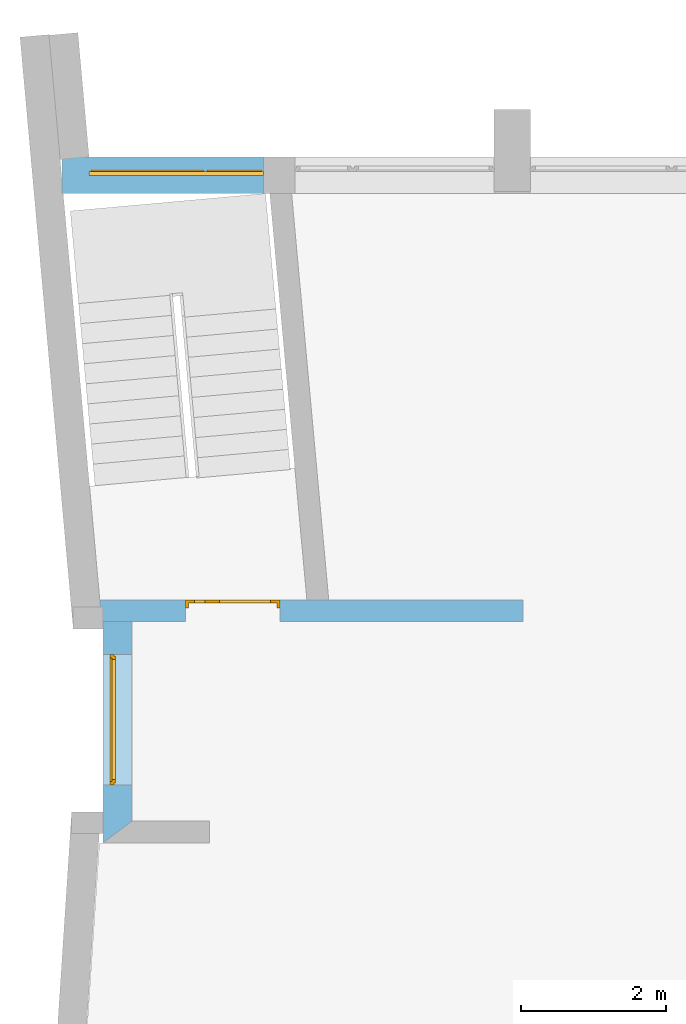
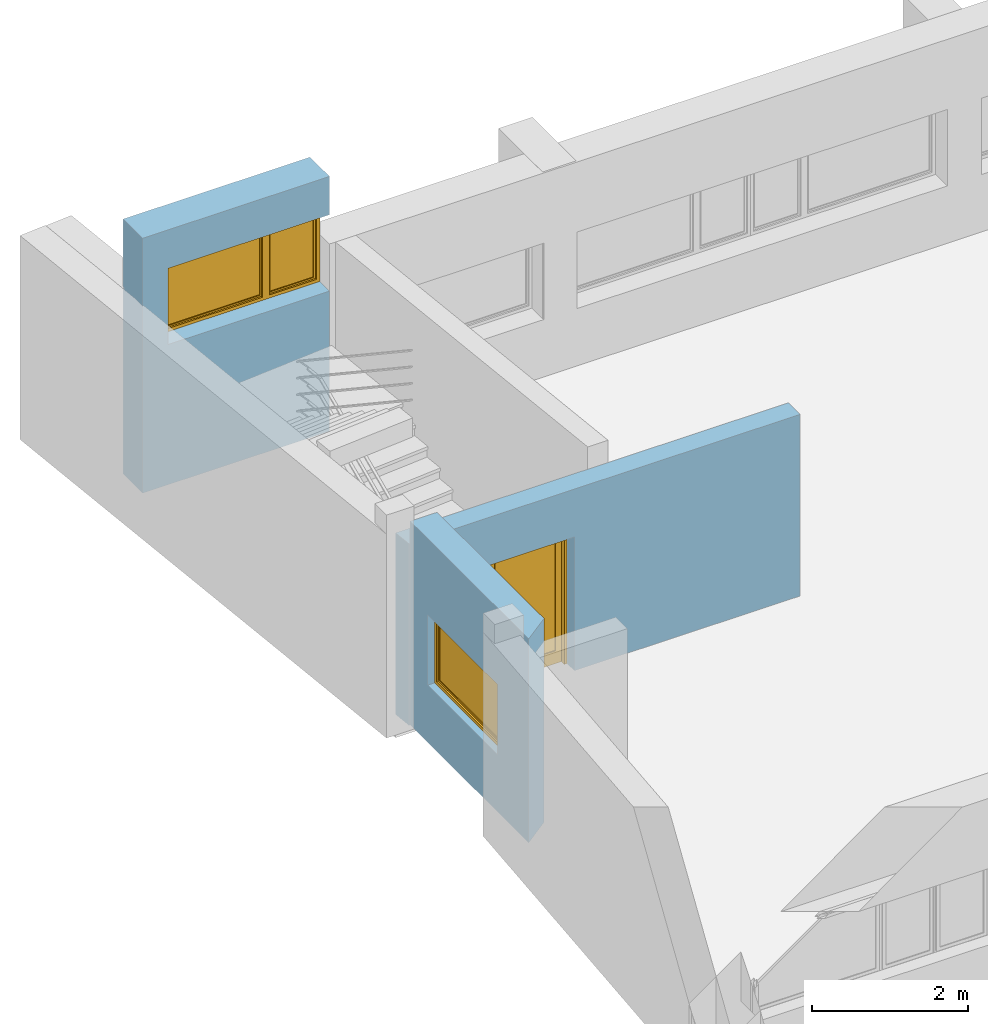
# One storey, part 8 of 10: 2 windows, 1 door, 4 openings, plus 3 elements that do not belong to this part.
"""IFC2X3 building model written with IfcOpenShell, lengths in millimetres."""

from ifc_helpers import new_model, entity, si_unit, converted_unit, money_unit, direction, frame, origin_with_axes, place, context, subcontext, project, spatial, polyline, outline, extrude, open_shell, faceted_brep, surface_model, material, material_list, layer, layer_set, layer_usage, type_object, element, fill, save


model = new_model("IFC2X3")

# Units and contexts
model_context = context("Model", 3, precision=1e-05, world=origin_with_axes(), true_north=direction((0.0, 1.0)))
body_context = subcontext(model_context, "Body", "Model", "MODEL_VIEW")
ifc_project = project(units=[si_unit("LENGTHUNIT", "METRE", prefix="MILLI"), si_unit("AREAUNIT", "SQUARE_METRE"), si_unit("VOLUMEUNIT", "CUBIC_METRE"), converted_unit("PLANEANGLEUNIT", "DEGREE", entity("IfcPlaneAngleMeasure", 0.0174532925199), si_unit("PLANEANGLEUNIT", "RADIAN"), dimensions=[0, 0, 0, 0, 0, 0, 0]), si_unit("SOLIDANGLEUNIT", "STERADIAN"), money_unit("USD"), converted_unit("TIMEUNIT", "Year", entity("IfcTimeMeasure", 31556926.0), si_unit("TIMEUNIT", "SECOND"), dimensions=[0, 0, 0, 0, 0, 0, 0]), si_unit("MASSUNIT", "GRAM"), si_unit("THERMODYNAMICTEMPERATUREUNIT", "DEGREE_CELSIUS"), si_unit("LUMINOUSINTENSITYUNIT", "LUMEN")], contexts=[model_context])

# Site, building, storey
site_placement = place(None, origin_with_axes())
site = spatial("IfcSite", under=ifc_project, at=site_placement, Name="Site", CompositionType="ELEMENT")
building_placement = place(site_placement, origin_with_axes())
building = spatial("IfcBuilding", under=site, at=building_placement, Name="Building", CompositionType="ELEMENT")
storey_placement = place(building_placement, origin_with_axes())
storey = spatial("IfcBuildingStorey", under=building, at=storey_placement, Name="2KORRUS", CompositionType="ELEMENT", Elevation=0.0)

# Wall, opening, window
ifc_material_1 = material(Name="Olemasolevad seinad tellis, uus viimistlus")
ifc_layer_1 = layer(ifc_material_1, 400.0, ventilated="UNKNOWN")
ifc_layer_set_1 = layer_set([ifc_layer_1], Name="Olemasolevad seinad tellis, uus viimistlus 400")
ifc_layer_usage_1 = layer_usage(ifc_layer_set_1, "AXIS2", "POSITIVE", -400.0)
wall_type_1 = type_object("IfcWallType", Name="Olemasolevad seinad tellis, uus viimistlus 400", PredefinedType="NOTDEFINED")
wall_1_placement = place(storey_placement, frame((-53377.938157, -11039.6041088, 0.0), z_axis=(0.0, 0.0, 1.0), x_axis=(0.0, -1.0, 0.0)))
wall_1 = element("IfcWallStandardCase", 1, at=wall_1_placement, inside=storey, type_object=wall_type_1, material=ifc_layer_usage_1, Name="vs1", ObjectType="vs1", context=body_context, shape_type="SweptSolid", body=[
    extrude(outline(polyline([(0.0, -400.0), (3047.7334586, -400.0), (2747.7334586, 0.0), (0.0, 0.0), (0.0, -400.0)])), origin_with_axes(), (0.0, 0.0, 1.0), 3200.0),
])
opening_1_placement = place(wall_1_placement, frame((1349.63579061, 0.0, 900.0), z_axis=(0.0, 0.0, 1.0), x_axis=(1.0, 0.0, 0.0)))
opening_1 = element("IfcOpeningElement", 2, at=opening_1_placement, cuts=wall_1, Name="A5", context=body_context, shape_type="SweptSolid", body=[
    extrude(outline(polyline([(-900.0, 0.0), (-900.0, -1100.0), (900.0, -1100.0), (900.0, 0.0), (-900.0, 0.0)])), frame((0.0, -300.0, 0.0), z_axis=(0.0, 1.0, 0.0), x_axis=(1.0, 0.0, 0.0)), (0.0, 0.0, 1.0), 700.0),
    extrude(outline(polyline([(-900.0, 1100.0), (-900.0, 0.0), (900.0, 0.0), (900.0, 1100.0), (-900.0, 1100.0)])), frame((0.0, -300.0, 0.0), z_axis=(0.0, -1.0, 0.0), x_axis=(1.0, 0.0, 0.0)), (0.0, 0.0, 1.0), 500.0),
])
ifc_material_2 = material(Name="Background")
ifc_material_list = material_list([ifc_material_2])
window_style_1 = type_object("IfcWindowStyle", Name="Window 19", ConstructionType="NOTDEFINED", OperationType="SINGLE_PANEL", ParameterTakesPrecedence=False, Sizeable=False)
window_1_placement = place(opening_1_placement, frame((-900.0, 0.0, 0.0), z_axis=(0.0, 0.0, 1.0), x_axis=(1.0, 0.0, 0.0)))
window_1 = element("IfcWindow", 3, at=window_1_placement, inside=storey, type_object=window_style_1, material=ifc_material_list, Name="A5", ObjectType="WINDOW", OverallHeight=1100.0, OverallWidth=1800.0, context=body_context, shape_type="SurfaceModel", body=[
    faceted_brep([(25.0, -250.0, 1050.0), (0.0, -250.0, 1050.0), (0.0, -300.0, 1050.0), (50.0, -300.0, 1050.0), (50.0, -275.0, 1050.0), (25.0, -275.0, 1050.0), (25.0, -250.0, 50.0), (0.0, -250.0, 50.0), (0.0, -300.0, 50.0), (50.0, -300.0, 50.0), (50.0, -275.0, 50.0), (25.0, -275.0, 50.0)], [[[0, 1, 2, 3, 4, 5]], [[6, 7, 1, 0]], [[1, 7, 8, 2]], [[2, 8, 9, 3]], [[4, 3, 9, 10]], [[10, 11, 5, 4]], [[5, 11, 6, 0]], [[11, 10, 9, 8, 7, 6]]]),
    faceted_brep([(1750.0, -275.0, 1050.0), (1750.0, -300.0, 1050.0), (1800.0, -300.0, 1050.0), (1800.0, -250.0, 1050.0), (1775.0, -250.0, 1050.0), (1775.0, -275.0, 1050.0), (1750.0, -275.0, 50.0), (1750.0, -300.0, 50.0), (1800.0, -300.0, 50.0), (1800.0, -250.0, 50.0), (1775.0, -250.0, 50.0), (1775.0, -275.0, 50.0)], [[[0, 1, 2, 3, 4, 5]], [[6, 7, 1, 0]], [[8, 2, 1, 7]], [[9, 3, 2, 8]], [[4, 3, 9, 10]], [[10, 11, 5, 4]], [[5, 11, 6, 0]], [[11, 10, 9, 8, 7, 6]]]),
    faceted_brep([(1750.0, -275.0, 50.0), (1750.0, -300.0, 50.0), (1800.0, -300.0, 50.0), (1800.0, -250.0, 50.0), (1775.0, -250.0, 50.0), (1775.0, -275.0, 50.0), (50.0, -275.0, 50.0), (50.0, -300.0, 50.0), (0.0, -300.0, 50.0), (0.0, -300.0, 0.0), (1800.0, -300.0, 0.0), (1800.0, -250.0, 0.0), (25.0, -250.0, 25.0), (1775.0, -250.0, 25.0), (0.0, -250.0, 0.0), (0.0, -250.0, 50.0), (25.0, -250.0, 50.0), (1775.0, -275.0, 25.0), (25.0, -275.0, 25.0), (25.0, -275.0, 50.0)], [[[0, 1, 2, 3, 4, 5]], [[6, 7, 1, 0]], [[8, 9, 10, 2, 1, 7]], [[11, 3, 2, 10]], [[12, 13, 4, 3, 11, 14, 15, 16]], [[13, 17, 5, 4]], [[5, 17, 18, 19, 6, 0]], [[19, 16, 15, 8, 7, 6]], [[15, 14, 9, 8]], [[14, 11, 10, 9]], [[12, 18, 17, 13]], [[19, 18, 12, 16]]]),
    faceted_brep([(25.0, -250.0, 1050.0), (0.0, -250.0, 1050.0), (0.0, -250.0, 1100.0), (1800.0, -250.0, 1100.0), (1800.0, -250.0, 1050.0), (1775.0, -250.0, 1050.0), (1775.0, -250.0, 1075.0), (25.0, -250.0, 1075.0), (25.0, -275.0, 1050.0), (50.0, -275.0, 1050.0), (50.0, -300.0, 1050.0), (0.0, -300.0, 1050.0), (0.0, -300.0, 1100.0), (1800.0, -300.0, 1100.0), (1800.0, -300.0, 1050.0), (1775.0, -275.0, 1050.0), (1750.0, -300.0, 1050.0), (1750.0, -275.0, 1050.0), (1775.0, -275.0, 1075.0), (25.0, -275.0, 1075.0)], [[[0, 1, 2, 3, 4, 5, 6, 7]], [[8, 9, 10, 11, 1, 0]], [[2, 1, 11, 12]], [[3, 2, 12, 13]], [[4, 3, 13, 14]], [[15, 5, 4, 14, 16, 17]], [[5, 15, 18, 6]], [[6, 18, 19, 7]], [[7, 19, 8, 0]], [[17, 9, 8, 19, 18, 15]], [[17, 16, 10, 9]], [[14, 13, 12, 11, 10, 16]]]),
    faceted_brep([(75.0, -275.0, 1025.0), (75.0, -225.0, 1025.0), (25.0, -225.0, 1025.0), (25.0, -275.0, 1025.0), (75.0, -275.0, 75.0), (75.0, -225.0, 75.0), (25.0, -225.0, 75.0), (25.0, -275.0, 75.0)], [[[0, 1, 2, 3]], [[4, 5, 1, 0]], [[1, 5, 6, 2]], [[3, 2, 6, 7]], [[0, 3, 7, 4]], [[7, 6, 5, 4]]]),
    faceted_brep([(1725.0, -275.0, 75.0), (1725.0, -225.0, 75.0), (1775.0, -225.0, 75.0), (1775.0, -275.0, 75.0), (1725.0, -275.0, 1025.0), (1725.0, -225.0, 1025.0), (1775.0, -225.0, 1025.0), (1775.0, -275.0, 1025.0)], [[[0, 1, 2, 3]], [[4, 5, 1, 0]], [[1, 5, 6, 2]], [[3, 2, 6, 7]], [[0, 3, 7, 4]], [[7, 6, 5, 4]]]),
    faceted_brep([(1775.0, -275.0, 25.0), (1775.0, -225.0, 25.0), (1775.0, -225.0, 75.0), (1775.0, -275.0, 75.0), (25.0, -275.0, 25.0), (25.0, -225.0, 25.0), (25.0, -225.0, 75.0), (75.0, -225.0, 75.0), (1725.0, -225.0, 75.0), (1725.0, -275.0, 75.0), (75.0, -275.0, 75.0), (25.0, -275.0, 75.0)], [[[0, 1, 2, 3]], [[4, 5, 1, 0]], [[1, 5, 6, 7, 8, 2]], [[3, 2, 8, 9]], [[0, 3, 9, 10, 11, 4]], [[11, 6, 5, 4]], [[10, 7, 6, 11]], [[9, 8, 7, 10]]]),
    faceted_brep([(25.0, -275.0, 1075.0), (25.0, -225.0, 1075.0), (25.0, -225.0, 1025.0), (25.0, -275.0, 1025.0), (1775.0, -275.0, 1075.0), (1775.0, -225.0, 1075.0), (1775.0, -225.0, 1025.0), (1725.0, -225.0, 1025.0), (75.0, -225.0, 1025.0), (75.0, -275.0, 1025.0), (1725.0, -275.0, 1025.0), (1775.0, -275.0, 1025.0)], [[[0, 1, 2, 3]], [[4, 5, 1, 0]], [[1, 5, 6, 7, 8, 2]], [[3, 2, 8, 9]], [[0, 3, 9, 10, 11, 4]], [[11, 6, 5, 4]], [[10, 7, 6, 11]], [[9, 8, 7, 10]]]),
    surface_model("IfcShellBasedSurfaceModel", [(75.0, -260.0, 75.0), (1725.0, -260.0, 75.0), (1725.0, -260.0, 1025.0), (75.0, -260.0, 1025.0)], [open_shell([[[0, 1, 2, 3]]])]),
    surface_model("IfcShellBasedSurfaceModel", [(75.0, -240.0, 75.0), (75.0, -240.0, 1025.0), (1725.0, -240.0, 1025.0), (1725.0, -240.0, 75.0)], [open_shell([[[0, 1, 2, 3]]])]),
])
fill(opening_1, window_1)

# Wall, openings, door
ifc_layer_2 = layer(ifc_material_1, 300.0, ventilated="UNKNOWN")
ifc_layer_set_2 = layer_set([ifc_layer_2], Name="Olemasolevad seinad tellis, uus viimistlus 300")
ifc_layer_usage_2 = layer_usage(ifc_layer_set_2, "AXIS2", "POSITIVE", 0.0)
wall_type_2 = type_object("IfcWallType", Name="Olemasolevad seinad tellis, uus viimistlus 300", PredefinedType="NOTDEFINED")
wall_2_placement = place(storey_placement, frame((-54196.8258343, -11039.6041088, 0.0), z_axis=(0.0, 0.0, 1.0), x_axis=(1.0, 0.0, 0.0)))
wall_2 = element("IfcWallStandardCase", 4, at=wall_2_placement, inside=storey, type_object=wall_type_2, material=ifc_layer_usage_2, Name="ks1", ObjectType="ks1", context=body_context, shape_type="SweptSolid", body=[
    extrude(outline(polyline([(401.61529643, 0.0), (6206.52913098, 0.0), (6206.52913098, 300.0), (374.62731654, 300.0), (401.61529643, 0.0)])), origin_with_axes(), (0.0, 0.0, 1.0), 2850.0),
])
opening_2_placement = place(wall_2_placement, frame((2205.09576789, 0.0, 0.0), z_axis=(0.0, 0.0, 1.0), x_axis=(1.0, 0.0, 0.0)))
element("IfcOpeningElement", 5, at=opening_2_placement, cuts=wall_2, Name="DOO - 001", context=body_context, shape_type="SweptSolid", body=[
    extrude(outline(polyline([(-650.0, -2100.0), (650.0, -2100.0), (650.0, 0.0), (-650.0, 0.0), (-650.0, -2100.0)])), frame((0.0, -300.0, 0.0), z_axis=(0.0, 1.0, 0.0), x_axis=(1.0, 0.0, 0.0)), (0.0, 0.0, 1.0), 900.0),
])
opening_3_placement = place(wall_2_placement, frame((2205.09576789, 0.0, 0.0), z_axis=(0.0, 0.0, 1.0), x_axis=(1.0, 0.0, 0.0)))
opening_3 = element("IfcOpeningElement", 6, at=opening_3_placement, cuts=wall_2, Name="SU4-2", context=body_context, shape_type="SweptSolid", body=[
    extrude(outline(polyline([(-650.0, -2100.0), (650.0, -2100.0), (650.0, 0.0), (-650.0, 0.0), (-650.0, -2100.0)])), frame((0.0, -300.0, 0.0), z_axis=(0.0, 1.0, 0.0), x_axis=(1.0, 0.0, 0.0)), (0.0, 0.0, 1.0), 900.0),
])
door_style = type_object("IfcDoorStyle", Name="Double Door Asymmetric 19", ConstructionType="NOTDEFINED", OperationType="DOUBLE_DOOR_SINGLE_SWING", ParameterTakesPrecedence=False, Sizeable=False)
door_placement = place(opening_3_placement, frame((-650.0, 0.0, 0.0), z_axis=(0.0, 0.0, 1.0), x_axis=(1.0, 0.0, 0.0)))
door = element("IfcDoor", 7, at=door_placement, inside=storey, type_object=door_style, material=ifc_material_list, Name="SU4-2", ObjectType="Trepkoja uks", OverallHeight=2100.0, OverallWidth=1300.0, context=body_context, shape_type="SurfaceModel", body=[
    faceted_brep([(40.0, 260.0, 0.0), (40.0, 260.0, 2060.0), (40.0, 185.0, 2060.0), (40.0, 185.0, 0.0), (28.0, 260.0, 2060.0), (28.0, 260.0, 0.0), (28.0, 300.0, 2060.0), (0.0, 300.0, 2060.0), (0.0, 185.0, 2060.0), (0.0, 185.0, 0.0), (0.0, 300.0, 0.0), (28.0, 300.0, 0.0)], [[[0, 1, 2, 3]], [[4, 1, 0, 5]], [[4, 6, 7, 8, 2, 1]], [[2, 8, 9, 3]], [[5, 0, 3, 9, 10, 11]], [[6, 4, 5, 11]], [[6, 11, 10, 7]], [[9, 8, 7, 10]]]),
    faceted_brep([(1272.0, 260.0, 2060.0), (1260.0, 260.0, 2060.0), (1260.0, 185.0, 2060.0), (1300.0, 185.0, 2060.0), (1300.0, 300.0, 2060.0), (1272.0, 300.0, 2060.0), (1272.0, 260.0, 0.0), (1260.0, 260.0, 0.0), (1260.0, 185.0, 0.0), (1300.0, 185.0, 0.0), (1300.0, 300.0, 0.0), (1272.0, 300.0, 0.0)], [[[0, 1, 2, 3, 4, 5]], [[1, 0, 6, 7]], [[1, 7, 8, 2]], [[2, 8, 9, 3]], [[3, 9, 10, 4]], [[11, 5, 4, 10]], [[0, 5, 11, 6]], [[6, 11, 10, 9, 8, 7]]]),
    faceted_brep([(28.0, 300.0, 2072.0), (28.0, 300.0, 2060.0), (0.0, 300.0, 2060.0), (0.0, 300.0, 2100.0), (1300.0, 300.0, 2100.0), (1300.0, 300.0, 2060.0), (1272.0, 300.0, 2060.0), (1272.0, 300.0, 2072.0), (28.0, 260.0, 2072.0), (28.0, 260.0, 2060.0), (40.0, 260.0, 2060.0), (40.0, 185.0, 2060.0), (0.0, 185.0, 2060.0), (0.0, 185.0, 2100.0), (1300.0, 185.0, 2100.0), (1300.0, 185.0, 2060.0), (1272.0, 260.0, 2060.0), (1260.0, 185.0, 2060.0), (1260.0, 260.0, 2060.0), (1272.0, 260.0, 2072.0)], [[[0, 1, 2, 3, 4, 5, 6, 7]], [[1, 0, 8, 9]], [[9, 10, 11, 12, 2, 1]], [[12, 13, 3, 2]], [[13, 14, 4, 3]], [[14, 15, 5, 4]], [[16, 6, 5, 15, 17, 18]], [[7, 6, 16, 19]], [[0, 7, 19, 8]], [[16, 18, 10, 9, 8, 19]], [[10, 18, 17, 11]], [[15, 14, 13, 12, 11, 17]]]),
    faceted_brep([(1272.0, 300.0, 200.0), (1272.0, 260.0, 200.0), (1172.0, 260.0, 200.0), (1172.0, 300.0, 200.0), (1272.0, 300.0, 1972.0), (1272.0, 260.0, 1972.0), (1172.0, 260.0, 1972.0), (1172.0, 300.0, 1972.0)], [[[0, 1, 2, 3]], [[4, 5, 1, 0]], [[1, 5, 6, 2]], [[3, 2, 6, 7]], [[0, 3, 7, 4]], [[7, 6, 5, 4]]]),
    faceted_brep([(372.0, 300.0, 200.0), (372.0, 260.0, 200.0), (372.0, 260.0, 1972.0), (372.0, 300.0, 1972.0), (472.0, 300.0, 200.0), (472.0, 260.0, 200.0), (472.0, 260.0, 1972.0), (472.0, 300.0, 1972.0)], [[[0, 1, 2, 3]], [[4, 5, 1, 0]], [[1, 5, 6, 2]], [[3, 2, 6, 7]], [[0, 3, 7, 4]], [[7, 6, 5, 4]]]),
    faceted_brep([(1272.0, 300.0, 0.0), (1272.0, 260.0, 0.0), (372.0, 260.0, 0.0), (372.0, 300.0, 0.0), (1272.0, 300.0, 200.0), (1272.0, 260.0, 200.0), (1172.0, 260.0, 200.0), (472.0, 260.0, 200.0), (372.0, 260.0, 200.0), (372.0, 300.0, 200.0), (472.0, 300.0, 200.0), (1172.0, 300.0, 200.0)], [[[0, 1, 2, 3]], [[4, 5, 1, 0]], [[1, 5, 6, 7, 8, 2]], [[3, 2, 8, 9]], [[0, 3, 9, 10, 11, 4]], [[11, 6, 5, 4]], [[10, 7, 6, 11]], [[9, 8, 7, 10]]]),
    faceted_brep([(1272.0, 300.0, 2072.0), (1272.0, 260.0, 2072.0), (1272.0, 260.0, 1972.0), (1272.0, 300.0, 1972.0), (372.0, 300.0, 2072.0), (372.0, 260.0, 2072.0), (372.0, 260.0, 1972.0), (472.0, 260.0, 1972.0), (1172.0, 260.0, 1972.0), (1172.0, 300.0, 1972.0), (472.0, 300.0, 1972.0), (372.0, 300.0, 1972.0)], [[[0, 1, 2, 3]], [[4, 5, 1, 0]], [[1, 5, 6, 7, 8, 2]], [[3, 2, 8, 9]], [[0, 3, 9, 10, 11, 4]], [[11, 6, 5, 4]], [[10, 7, 6, 11]], [[9, 8, 7, 10]]]),
    surface_model("IfcShellBasedSurfaceModel", [(1172.0, 286.0, 200.0), (472.0, 286.0, 200.0), (472.0, 286.0, 1972.0), (1172.0, 286.0, 1972.0)], [open_shell([[[0, 1, 2, 3]]])]),
    surface_model("IfcShellBasedSurfaceModel", [(1172.0, 274.0, 200.0), (1172.0, 274.0, 1972.0), (472.0, 274.0, 1972.0), (472.0, 274.0, 200.0)], [open_shell([[[0, 1, 2, 3]]])]),
    faceted_brep([(28.0, 300.0, 200.0), (128.0, 300.0, 200.0), (128.0, 260.0, 200.0), (28.0, 260.0, 200.0), (28.0, 300.0, 1972.0), (128.0, 300.0, 1972.0), (128.0, 260.0, 1972.0), (28.0, 260.0, 1972.0)], [[[0, 1, 2, 3]], [[0, 4, 5, 1]], [[1, 5, 6, 2]], [[3, 2, 6, 7]], [[4, 0, 3, 7]], [[5, 4, 7, 6]]]),
    faceted_brep([(372.0, 300.0, 200.0), (372.0, 300.0, 1972.0), (372.0, 260.0, 1972.0), (372.0, 260.0, 200.0), (272.0, 300.0, 200.0), (272.0, 300.0, 1972.0), (272.0, 260.0, 1972.0), (272.0, 260.0, 200.0)], [[[0, 1, 2, 3]], [[0, 4, 5, 1]], [[1, 5, 6, 2]], [[3, 2, 6, 7]], [[4, 0, 3, 7]], [[5, 4, 7, 6]]]),
    faceted_brep([(28.0, 300.0, 0.0), (372.0, 300.0, 0.0), (372.0, 260.0, 0.0), (28.0, 260.0, 0.0), (28.0, 300.0, 200.0), (128.0, 300.0, 200.0), (272.0, 300.0, 200.0), (372.0, 300.0, 200.0), (372.0, 260.0, 200.0), (272.0, 260.0, 200.0), (128.0, 260.0, 200.0), (28.0, 260.0, 200.0)], [[[0, 1, 2, 3]], [[0, 4, 5, 6, 7, 1]], [[1, 7, 8, 2]], [[3, 2, 8, 9, 10, 11]], [[4, 0, 3, 11]], [[5, 4, 11, 10]], [[6, 5, 10, 9]], [[7, 6, 9, 8]]]),
    faceted_brep([(28.0, 300.0, 2072.0), (28.0, 300.0, 1972.0), (28.0, 260.0, 1972.0), (28.0, 260.0, 2072.0), (372.0, 300.0, 2072.0), (372.0, 300.0, 1972.0), (272.0, 300.0, 1972.0), (128.0, 300.0, 1972.0), (128.0, 260.0, 1972.0), (272.0, 260.0, 1972.0), (372.0, 260.0, 1972.0), (372.0, 260.0, 2072.0)], [[[0, 1, 2, 3]], [[0, 4, 5, 6, 7, 1]], [[1, 7, 8, 2]], [[3, 2, 8, 9, 10, 11]], [[4, 0, 3, 11]], [[5, 4, 11, 10]], [[6, 5, 10, 9]], [[7, 6, 9, 8]]]),
    surface_model("IfcShellBasedSurfaceModel", [(128.0, 286.0, 200.0), (128.0, 286.0, 1972.0), (272.0, 286.0, 1972.0), (272.0, 286.0, 200.0)], [open_shell([[[0, 1, 2, 3]]])]),
    surface_model("IfcShellBasedSurfaceModel", [(128.0, 274.0, 200.0), (272.0, 274.0, 200.0), (272.0, 274.0, 1972.0), (128.0, 274.0, 1972.0)], [open_shell([[[0, 1, 2, 3]]])]),
])
fill(opening_3, door)

# Wall, opening, window
ifc_layer_3 = layer(ifc_material_1, 500.0, ventilated="UNKNOWN")
ifc_layer_set_3 = layer_set([ifc_layer_3], Name="Olemasolevad seinad tellis, uus viimistlus 500")
ifc_layer_usage_3 = layer_usage(ifc_layer_set_3, "AXIS2", "POSITIVE", -100.0)
wall_type_3 = type_object("IfcWallType", Name="Olemasolevad seinad tellis, uus viimistlus 500", PredefinedType="NOTDEFINED")
wall_3_placement = place(storey_placement, frame((-54343.0262419, -5039.6041088, 260.0), z_axis=(0.0, 0.0, 1.0), x_axis=(1.0, 0.0, 0.0)))
wall_3 = element("IfcWallStandardCase", 8, at=wall_3_placement, inside=storey, type_object=wall_type_3, material=ifc_layer_usage_3, Name="VS1", ObjectType="VS1", context=body_context, shape_type="SweptSolid", body=[
    extrude(outline(polyline([(0.0, -100.0), (2773.68742949, -100.0), (2773.68742949, 400.0), (0.0, 400.0), (0.0, -100.0)])), origin_with_axes(), (0.0, 0.0, 1.0), 4000.0),
])
opening_4_placement = place(wall_3_placement, frame((1573.68742949, 0.0, 2200.0), z_axis=(0.0, 0.0, 1.0), x_axis=(1.0, 0.0, 0.0)))
opening_4 = element("IfcOpeningElement", 9, at=opening_4_placement, cuts=wall_3, Name="A2", context=body_context, shape_type="SweptSolid", body=[
    extrude(outline(polyline([(-1200.0, 1200.0), (-1200.0, 0.0), (1200.0, 0.0), (1200.0, 1200.0), (-1200.0, 1200.0)])), frame((0.0, 200.0, 0.0), z_axis=(0.0, -1.0, 0.0), x_axis=(1.0, 0.0, 0.0)), (0.0, 0.0, 1.0), 800.0),
    extrude(outline(polyline([(-1200.0, 0.0), (-1200.0, -1200.0), (1200.0, -1200.0), (1200.0, 0.0), (-1200.0, 0.0)])), frame((0.0, 200.0, 0.0), z_axis=(0.0, 1.0, 0.0), x_axis=(1.0, 0.0, 0.0)), (0.0, 0.0, 1.0), 700.0),
])
window_style_2 = type_object("IfcWindowStyle", Name="Double Window 19", ConstructionType="NOTDEFINED", OperationType="DOUBLE_PANEL_VERTICAL", ParameterTakesPrecedence=False, Sizeable=False)
window_2_placement = place(opening_4_placement, frame((-1200.0, 0.0, 0.0), z_axis=(0.0, 0.0, 1.0), x_axis=(1.0, 0.0, 0.0)))
window_2 = element("IfcWindow", 10, at=window_2_placement, inside=storey, type_object=window_style_2, material=ifc_material_list, Name="A2", ObjectType="A2", OverallHeight=1200.0, OverallWidth=2400.0, context=body_context, shape_type="SurfaceModel", body=[
    faceted_brep([(25.0, 200.0, 1150.0), (0.0, 200.0, 1150.0), (0.0, 150.0, 1150.0), (50.0, 150.0, 1150.0), (50.0, 175.0, 1150.0), (25.0, 175.0, 1150.0), (25.0, 200.0, 50.0), (0.0, 200.0, 50.0), (0.0, 150.0, 50.0), (50.0, 150.0, 50.0), (50.0, 175.0, 50.0), (25.0, 175.0, 50.0)], [[[0, 1, 2, 3, 4, 5]], [[6, 7, 1, 0]], [[1, 7, 8, 2]], [[2, 8, 9, 3]], [[4, 3, 9, 10]], [[10, 11, 5, 4]], [[5, 11, 6, 0]], [[11, 10, 9, 8, 7, 6]]]),
    faceted_brep([(2350.0, 175.0, 1150.0), (2350.0, 150.0, 1150.0), (2400.0, 150.0, 1150.0), (2400.0, 200.0, 1150.0), (2375.0, 200.0, 1150.0), (2375.0, 175.0, 1150.0), (2350.0, 175.0, 50.0), (2350.0, 150.0, 50.0), (2400.0, 150.0, 50.0), (2400.0, 200.0, 50.0), (2375.0, 200.0, 50.0), (2375.0, 175.0, 50.0)], [[[0, 1, 2, 3, 4, 5]], [[6, 7, 1, 0]], [[8, 2, 1, 7]], [[9, 3, 2, 8]], [[4, 3, 9, 10]], [[10, 11, 5, 4]], [[5, 11, 6, 0]], [[11, 10, 9, 8, 7, 6]]]),
    faceted_brep([(1550.0, 175.0, 1150.0), (1550.0, 150.0, 1150.0), (1650.0, 150.0, 1150.0), (1650.0, 175.0, 1150.0), (1625.0, 175.0, 1150.0), (1625.0, 200.0, 1150.0), (1575.0, 200.0, 1150.0), (1575.0, 175.0, 1150.0), (1550.0, 175.0, 50.0), (1550.0, 150.0, 50.0), (1650.0, 150.0, 50.0), (1650.0, 175.0, 50.0), (1625.0, 175.0, 50.0), (1625.0, 200.0, 50.0), (1575.0, 200.0, 50.0), (1575.0, 175.0, 50.0)], [[[0, 1, 2, 3, 4, 5, 6, 7]], [[8, 9, 1, 0]], [[10, 2, 1, 9]], [[3, 2, 10, 11]], [[11, 12, 4, 3]], [[4, 12, 13, 5]], [[6, 5, 13, 14]], [[14, 15, 7, 6]], [[7, 15, 8, 0]], [[15, 14, 13, 12, 11, 10, 9, 8]]]),
    faceted_brep([(1550.0, 175.0, 50.0), (1550.0, 150.0, 50.0), (1650.0, 150.0, 50.0), (1650.0, 175.0, 50.0), (1625.0, 175.0, 50.0), (1625.0, 200.0, 50.0), (1575.0, 200.0, 50.0), (1575.0, 175.0, 50.0), (50.0, 175.0, 50.0), (50.0, 150.0, 50.0), (0.0, 150.0, 50.0), (0.0, 150.0, 0.0), (2400.0, 150.0, 0.0), (2400.0, 150.0, 50.0), (2350.0, 150.0, 50.0), (2350.0, 175.0, 50.0), (2375.0, 175.0, 50.0), (2375.0, 175.0, 25.0), (1625.0, 175.0, 25.0), (1625.0, 200.0, 25.0), (25.0, 200.0, 25.0), (1575.0, 200.0, 25.0), (2375.0, 200.0, 25.0), (2375.0, 200.0, 50.0), (2400.0, 200.0, 50.0), (2400.0, 200.0, 0.0), (0.0, 200.0, 0.0), (0.0, 200.0, 50.0), (25.0, 200.0, 50.0), (1575.0, 175.0, 25.0), (25.0, 175.0, 25.0), (25.0, 175.0, 50.0)], [[[0, 1, 2, 3, 4, 5, 6, 7]], [[8, 9, 1, 0]], [[10, 11, 12, 13, 14, 2, 1, 9]], [[3, 2, 14, 15]], [[16, 17, 18, 4, 3, 15]], [[4, 18, 19, 5]], [[20, 21, 6, 5, 19, 22, 23, 24, 25, 26, 27, 28]], [[21, 29, 7, 6]], [[7, 29, 30, 31, 8, 0]], [[31, 28, 27, 10, 9, 8]], [[27, 26, 11, 10]], [[26, 25, 12, 11]], [[25, 24, 13, 12]], [[15, 14, 13, 24, 23, 16]], [[22, 17, 16, 23]], [[19, 18, 17, 22]], [[20, 30, 29, 21]], [[31, 30, 20, 28]]]),
    faceted_brep([(25.0, 200.0, 1150.0), (0.0, 200.0, 1150.0), (0.0, 200.0, 1200.0), (2400.0, 200.0, 1200.0), (2400.0, 200.0, 1150.0), (2375.0, 200.0, 1150.0), (2375.0, 200.0, 1175.0), (1625.0, 200.0, 1175.0), (1625.0, 200.0, 1150.0), (1575.0, 200.0, 1150.0), (1575.0, 200.0, 1175.0), (25.0, 200.0, 1175.0), (25.0, 175.0, 1150.0), (50.0, 175.0, 1150.0), (50.0, 150.0, 1150.0), (0.0, 150.0, 1150.0), (0.0, 150.0, 1200.0), (2400.0, 150.0, 1200.0), (2400.0, 150.0, 1150.0), (2375.0, 175.0, 1150.0), (2350.0, 150.0, 1150.0), (2350.0, 175.0, 1150.0), (2375.0, 175.0, 1175.0), (1625.0, 175.0, 1175.0), (1625.0, 175.0, 1150.0), (1575.0, 175.0, 1150.0), (1650.0, 175.0, 1150.0), (1650.0, 150.0, 1150.0), (1550.0, 150.0, 1150.0), (1550.0, 175.0, 1150.0), (1575.0, 175.0, 1175.0), (25.0, 175.0, 1175.0)], [[[0, 1, 2, 3, 4, 5, 6, 7, 8, 9, 10, 11]], [[12, 13, 14, 15, 1, 0]], [[2, 1, 15, 16]], [[3, 2, 16, 17]], [[4, 3, 17, 18]], [[19, 5, 4, 18, 20, 21]], [[5, 19, 22, 6]], [[6, 22, 23, 7]], [[7, 23, 24, 8]], [[25, 9, 8, 24, 26, 27, 28, 29]], [[9, 25, 30, 10]], [[10, 30, 31, 11]], [[11, 31, 12, 0]], [[29, 13, 12, 31, 30, 25]], [[29, 28, 14, 13]], [[27, 20, 18, 17, 16, 15, 14, 28]], [[21, 20, 27, 26]], [[21, 26, 24, 23, 22, 19]]]),
    faceted_brep([(75.0, 175.0, 1125.0), (75.0, 225.0, 1125.0), (25.0, 225.0, 1125.0), (25.0, 175.0, 1125.0), (75.0, 175.0, 75.0), (75.0, 225.0, 75.0), (25.0, 225.0, 75.0), (25.0, 175.0, 75.0)], [[[0, 1, 2, 3]], [[4, 5, 1, 0]], [[1, 5, 6, 2]], [[3, 2, 6, 7]], [[0, 3, 7, 4]], [[7, 6, 5, 4]]]),
    faceted_brep([(1525.0, 175.0, 75.0), (1525.0, 225.0, 75.0), (1575.0, 225.0, 75.0), (1575.0, 175.0, 75.0), (1525.0, 175.0, 1125.0), (1525.0, 225.0, 1125.0), (1575.0, 225.0, 1125.0), (1575.0, 175.0, 1125.0)], [[[0, 1, 2, 3]], [[4, 5, 1, 0]], [[1, 5, 6, 2]], [[3, 2, 6, 7]], [[0, 3, 7, 4]], [[7, 6, 5, 4]]]),
    faceted_brep([(1575.0, 175.0, 25.0), (1575.0, 225.0, 25.0), (1575.0, 225.0, 75.0), (1575.0, 175.0, 75.0), (25.0, 175.0, 25.0), (25.0, 225.0, 25.0), (25.0, 225.0, 75.0), (75.0, 225.0, 75.0), (1525.0, 225.0, 75.0), (1525.0, 175.0, 75.0), (75.0, 175.0, 75.0), (25.0, 175.0, 75.0)], [[[0, 1, 2, 3]], [[4, 5, 1, 0]], [[1, 5, 6, 7, 8, 2]], [[3, 2, 8, 9]], [[0, 3, 9, 10, 11, 4]], [[11, 6, 5, 4]], [[10, 7, 6, 11]], [[9, 8, 7, 10]]]),
    faceted_brep([(25.0, 175.0, 1175.0), (25.0, 225.0, 1175.0), (25.0, 225.0, 1125.0), (25.0, 175.0, 1125.0), (1575.0, 175.0, 1175.0), (1575.0, 225.0, 1175.0), (1575.0, 225.0, 1125.0), (1525.0, 225.0, 1125.0), (75.0, 225.0, 1125.0), (75.0, 175.0, 1125.0), (1525.0, 175.0, 1125.0), (1575.0, 175.0, 1125.0)], [[[0, 1, 2, 3]], [[4, 5, 1, 0]], [[1, 5, 6, 7, 8, 2]], [[3, 2, 8, 9]], [[0, 3, 9, 10, 11, 4]], [[11, 6, 5, 4]], [[10, 7, 6, 11]], [[9, 8, 7, 10]]]),
    surface_model("IfcShellBasedSurfaceModel", [(75.0, 190.0, 75.0), (1525.0, 190.0, 75.0), (1525.0, 190.0, 1125.0), (75.0, 190.0, 1125.0)], [open_shell([[[0, 1, 2, 3]]])]),
    surface_model("IfcShellBasedSurfaceModel", [(75.0, 210.0, 75.0), (75.0, 210.0, 1125.0), (1525.0, 210.0, 1125.0), (1525.0, 210.0, 75.0)], [open_shell([[[0, 1, 2, 3]]])]),
    faceted_brep([(1675.0, 175.0, 1125.0), (1675.0, 225.0, 1125.0), (1625.0, 225.0, 1125.0), (1625.0, 175.0, 1125.0), (1675.0, 175.0, 75.0), (1675.0, 225.0, 75.0), (1625.0, 225.0, 75.0), (1625.0, 175.0, 75.0)], [[[0, 1, 2, 3]], [[4, 5, 1, 0]], [[1, 5, 6, 2]], [[3, 2, 6, 7]], [[0, 3, 7, 4]], [[7, 6, 5, 4]]]),
    faceted_brep([(2325.0, 175.0, 75.0), (2325.0, 225.0, 75.0), (2375.0, 225.0, 75.0), (2375.0, 175.0, 75.0), (2325.0, 175.0, 1125.0), (2325.0, 225.0, 1125.0), (2375.0, 225.0, 1125.0), (2375.0, 175.0, 1125.0)], [[[0, 1, 2, 3]], [[4, 5, 1, 0]], [[1, 5, 6, 2]], [[3, 2, 6, 7]], [[0, 3, 7, 4]], [[7, 6, 5, 4]]]),
    faceted_brep([(2375.0, 175.0, 25.0), (2375.0, 225.0, 25.0), (2375.0, 225.0, 75.0), (2375.0, 175.0, 75.0), (1625.0, 175.0, 25.0), (1625.0, 225.0, 25.0), (1625.0, 225.0, 75.0), (1675.0, 225.0, 75.0), (2325.0, 225.0, 75.0), (2325.0, 175.0, 75.0), (1675.0, 175.0, 75.0), (1625.0, 175.0, 75.0)], [[[0, 1, 2, 3]], [[4, 5, 1, 0]], [[1, 5, 6, 7, 8, 2]], [[3, 2, 8, 9]], [[0, 3, 9, 10, 11, 4]], [[11, 6, 5, 4]], [[10, 7, 6, 11]], [[9, 8, 7, 10]]]),
    faceted_brep([(1625.0, 175.0, 1175.0), (1625.0, 225.0, 1175.0), (1625.0, 225.0, 1125.0), (1625.0, 175.0, 1125.0), (2375.0, 175.0, 1175.0), (2375.0, 225.0, 1175.0), (2375.0, 225.0, 1125.0), (2325.0, 225.0, 1125.0), (1675.0, 225.0, 1125.0), (1675.0, 175.0, 1125.0), (2325.0, 175.0, 1125.0), (2375.0, 175.0, 1125.0)], [[[0, 1, 2, 3]], [[4, 5, 1, 0]], [[1, 5, 6, 7, 8, 2]], [[3, 2, 8, 9]], [[0, 3, 9, 10, 11, 4]], [[11, 6, 5, 4]], [[10, 7, 6, 11]], [[9, 8, 7, 10]]]),
    surface_model("IfcShellBasedSurfaceModel", [(1675.0, 190.0, 75.0), (2325.0, 190.0, 75.0), (2325.0, 190.0, 1125.0), (1675.0, 190.0, 1125.0)], [open_shell([[[0, 1, 2, 3]]])]),
    surface_model("IfcShellBasedSurfaceModel", [(1675.0, 210.0, 75.0), (1675.0, 210.0, 1125.0), (2325.0, 210.0, 1125.0), (2325.0, 210.0, 75.0)], [open_shell([[[0, 1, 2, 3]]])]),
])
fill(opening_4, window_2)

save(model, "model.ifc")
